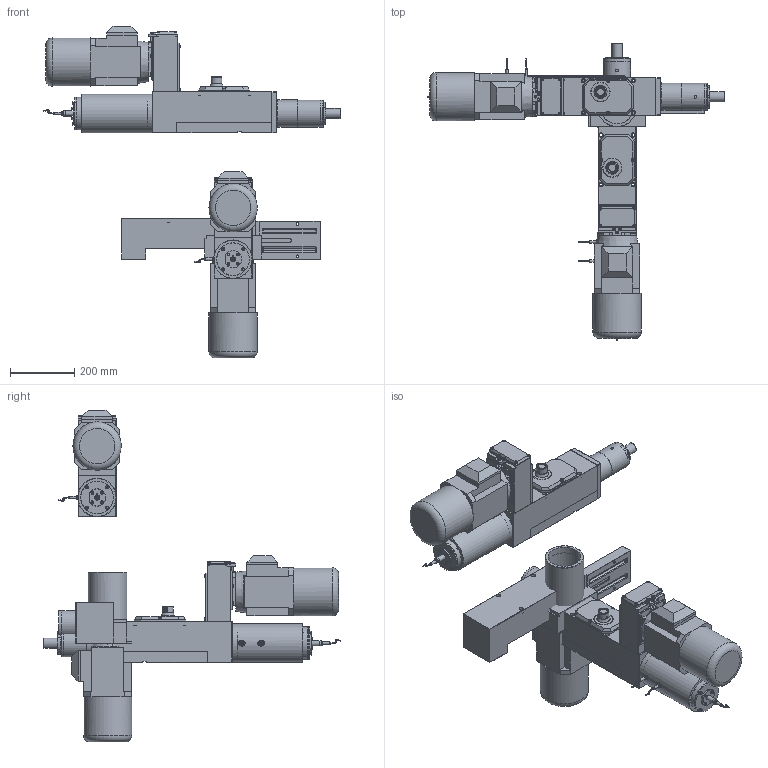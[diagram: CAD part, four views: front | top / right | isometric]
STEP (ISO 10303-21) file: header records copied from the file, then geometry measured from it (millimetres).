
FILE_DESCRIPTION( ( 'STEP AP203' ), '1' );
FILE_NAME( 'C:/Documents and Settings/Saverio/Desktop/disegni ironcad/unità serie 1/MC 112 A/MC 112 A_A04_P.stp', '2014-03-25T08:36:09', ( ' ' ), ( ' ' ), 'XStep 1.0', ' ', ' ' );
FILE_SCHEMA( ( 'CONFIG_CONTROL_DESIGN' ) );
Length unit declared in the file: metre
Products named in the file (57): Assem1; Assem2; Assem3; 1; 2; 3; 4; 5; 6; 7; 8; 9; 10; 11; 12; 13; 14; 15; 16; 17; 18; 19; 20; 21; 22; 23; 24; 25; 26; 27; 28; 29; 30; 31; 32; 33; 34; 35; 36; 37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
Bounding box: 922.75 x 924.55 x 1032.13 mm (x, y, z)
Volume: 41591067.1 mm3; surface area: 3831023.5 mm2
Topology: 162 solids, 162 shells, 3381 faces, 7593 edges, 4746 vertices
Faces by surface type: plane 2007, cylinder 774, cone 474, sphere 60, bspline 42, torus 24
Full cylindrical faces by diameter (mm): 3 x3, 4.134 x3, 4.5 x12, 5 x57, 5.5 x15, 6 x33, 6.5 x6, 6.75 x12, 6.9 x12, 7 x15, 8 x9, 8.385 x15, 8.5 x27, 9.87 x24, 12 x6, 13.5 x12, 16 x6, 18 x3, 23 x3, 28.9 x3, 32 x18, 41 x3, 50 x6, 52 x3, 52.5 x3, 53.1 x3, 54 x6, 54.4 x3, 60 x3, 70 x6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
Entity records: 34964 total; most frequent: CARTESIAN_POINT 8565, DIRECTION 4945, ORIENTED_EDGE 4480, EDGE_CURVE 2240, AXIS2_PLACEMENT_3D 1829, VERTEX_POINT 1538, EDGE_LOOP 1536, LINE 1287
